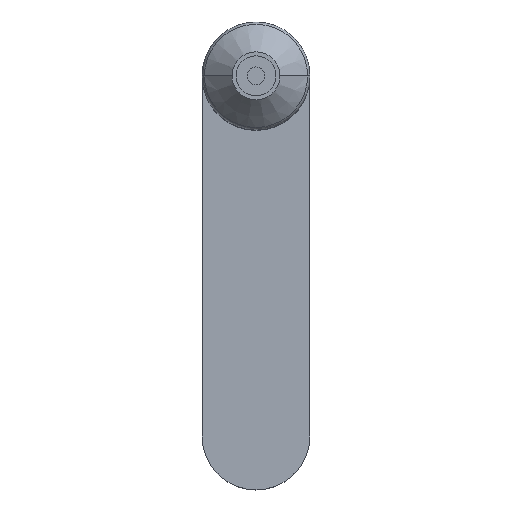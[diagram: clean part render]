
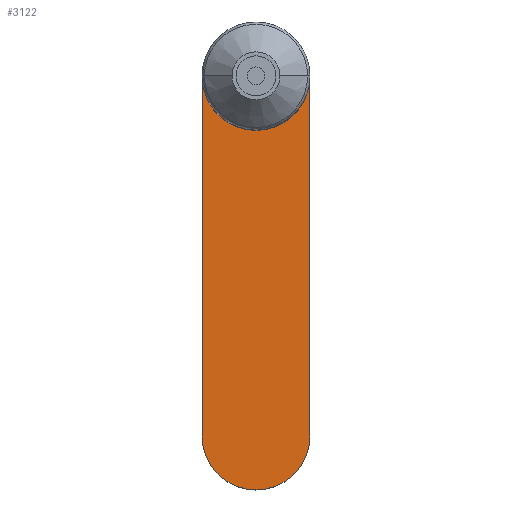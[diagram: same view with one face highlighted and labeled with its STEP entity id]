
A CAD part, top view. The second image highlights one B-rep face of the part: STEP entity #3122.
In plain terms, the highlighted planar face has unit normal (0, 0, 1).
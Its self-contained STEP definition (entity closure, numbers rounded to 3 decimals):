
#313 = DIRECTION ( 'NONE',  ( 0., 1., 0. ) ) ;
#454 = CARTESIAN_POINT ( 'NONE',  ( 0., -13.5, 15. ) ) ;
#464 = CARTESIAN_POINT ( 'NONE',  ( 13.5, 0., 15. ) ) ;
#559 = ORIENTED_EDGE ( 'NONE', *, *, #15554, .T. ) ;
#1906 = LINE ( 'NONE', #464, #7777 ) ;
#1995 = DIRECTION ( 'NONE',  ( 0., 0., -1. ) ) ;
#2007 = EDGE_CURVE ( 'NONE', #6582, #10740, #11283, .T. ) ;
#2010 = CARTESIAN_POINT ( 'NONE',  ( 0., -90., 15. ) ) ;
#3122 = ADVANCED_FACE ( 'NONE', ( #15017 ), #3755, .T. ) ;
#3307 = ORIENTED_EDGE ( 'NONE', *, *, #14542, .T. ) ;
#3755 = PLANE ( 'NONE',  #7554 ) ;
#4219 = VECTOR ( 'NONE', #5941, 1000. ) ;
#4709 = EDGE_CURVE ( 'NONE', #14806, #14909, #5636, .T. ) ;
#5103 = ORIENTED_EDGE ( 'NONE', *, *, #4709, .T. ) ;
#5369 = EDGE_LOOP ( 'NONE', ( #10032, #559, #5103, #3307, #6692 ) ) ;
#5441 = DIRECTION ( 'NONE',  ( 0., -1., 0. ) ) ;
#5636 = CIRCLE ( 'NONE', #13661, 13.5 ) ;
#5725 = DIRECTION ( 'NONE',  ( 0., 0., 1. ) ) ;
#5941 = DIRECTION ( 'NONE',  ( 0., -1., 0. ) ) ;
#6582 = VERTEX_POINT ( 'NONE', #12363 ) ;
#6692 = ORIENTED_EDGE ( 'NONE', *, *, #2007, .T. ) ;
#7331 = DIRECTION ( 'NONE',  ( 0., -1., 0. ) ) ;
#7554 = AXIS2_PLACEMENT_3D ( 'NONE', #10986, #13541, #7331 ) ;
#7777 = VECTOR ( 'NONE', #313, 1000. ) ;
#8096 = CARTESIAN_POINT ( 'NONE',  ( -13.5, 0., 15. ) ) ;
#8200 = CARTESIAN_POINT ( 'NONE',  ( 13.5, 0., 15. ) ) ;
#9353 = DIRECTION ( 'NONE',  ( 0., 0., -1. ) ) ;
#9840 = EDGE_CURVE ( 'NONE', #10740, #15805, #1906, .T. ) ;
#10032 = ORIENTED_EDGE ( 'NONE', *, *, #9840, .T. ) ;
#10104 = CARTESIAN_POINT ( 'NONE',  ( 13.5, -90., 15. ) ) ;
#10527 = CARTESIAN_POINT ( 'NONE',  ( 0., 0., 15. ) ) ;
#10565 = CARTESIAN_POINT ( 'NONE',  ( 0., 0., 15. ) ) ;
#10716 = DIRECTION ( 'NONE',  ( 0., -1., 0. ) ) ;
#10740 = VERTEX_POINT ( 'NONE', #10104 ) ;
#10986 = CARTESIAN_POINT ( 'NONE',  ( 0., -90., 15. ) ) ;
#11283 = CIRCLE ( 'NONE', #13914, 13.5 ) ;
#12278 = LINE ( 'NONE', #14626, #4219 ) ;
#12363 = CARTESIAN_POINT ( 'NONE',  ( -13.5, -90., 15. ) ) ;
#13110 = DIRECTION ( 'NONE',  ( 0., -1., 0. ) ) ;
#13541 = DIRECTION ( 'NONE',  ( 0., 0., 1. ) ) ;
#13655 = AXIS2_PLACEMENT_3D ( 'NONE', #10527, #1995, #5441 ) ;
#13661 = AXIS2_PLACEMENT_3D ( 'NONE', #10565, #9353, #10716 ) ;
#13914 = AXIS2_PLACEMENT_3D ( 'NONE', #2010, #5725, #13110 ) ;
#14542 = EDGE_CURVE ( 'NONE', #14909, #6582, #12278, .T. ) ;
#14626 = CARTESIAN_POINT ( 'NONE',  ( -13.5, 0., 15. ) ) ;
#14806 = VERTEX_POINT ( 'NONE', #454 ) ;
#14872 = CIRCLE ( 'NONE', #13655, 13.5 ) ;
#14909 = VERTEX_POINT ( 'NONE', #8096 ) ;
#15017 = FACE_OUTER_BOUND ( 'NONE', #5369, .T. ) ;
#15554 = EDGE_CURVE ( 'NONE', #15805, #14806, #14872, .T. ) ;
#15805 = VERTEX_POINT ( 'NONE', #8200 ) ;
